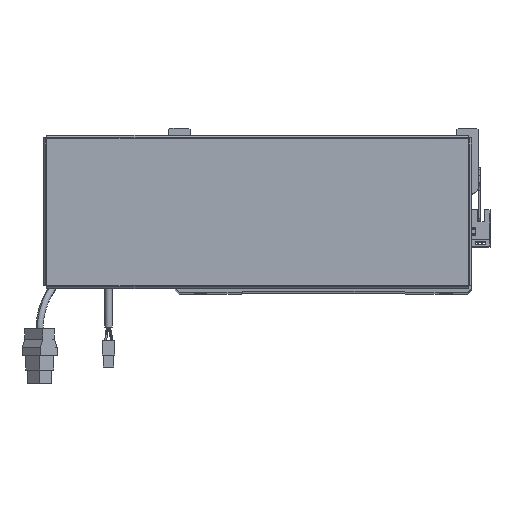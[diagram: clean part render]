
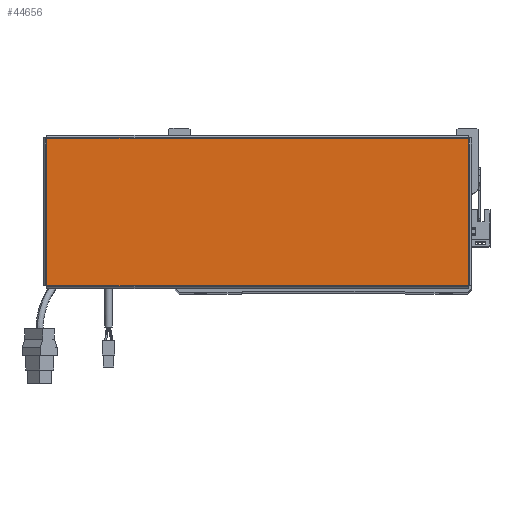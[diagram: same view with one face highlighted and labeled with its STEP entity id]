
A CAD part, top view. The second image highlights one B-rep face of the part: STEP entity #44656.
In plain terms, the highlighted planar face has unit normal (0, 0, 1).
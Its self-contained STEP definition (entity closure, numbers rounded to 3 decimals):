
#830 = LINE ( 'NONE', #17019, #52307 ) ;
#2683 = CARTESIAN_POINT ( 'NONE',  ( -156.513, 54.793, 0. ) ) ;
#7366 = ORIENTED_EDGE ( 'NONE', *, *, #21416, .T. ) ;
#8075 = DIRECTION ( 'NONE',  ( 0., -1., 0. ) ) ;
#10597 = ORIENTED_EDGE ( 'NONE', *, *, #56997, .T. ) ;
#15686 = VERTEX_POINT ( 'NONE', #58183 ) ;
#17019 = CARTESIAN_POINT ( 'NONE',  ( 156.513, -54.793, 0. ) ) ;
#17365 = CARTESIAN_POINT ( 'NONE',  ( 156.543, 54.763, 0. ) ) ;
#18722 = CARTESIAN_POINT ( 'NONE',  ( 156.513, 54.763, 0. ) ) ;
#21416 = EDGE_CURVE ( 'NONE', #60050, #40369, #53775, .T. ) ;
#24174 = DIRECTION ( 'NONE',  ( 0., 0., 1. ) ) ;
#24340 = EDGE_LOOP ( 'NONE', ( #29048, #45868, #7366, #10597 ) ) ;
#24402 = CARTESIAN_POINT ( 'NONE',  ( 0., 0., 0. ) ) ;
#29048 = ORIENTED_EDGE ( 'NONE', *, *, #60227, .T. ) ;
#30328 = VECTOR ( 'NONE', #8075, 1000. ) ;
#34981 = EDGE_CURVE ( 'NONE', #15686, #60050, #830, .T. ) ;
#37486 = LINE ( 'NONE', #2683, #30328 ) ;
#40324 = VECTOR ( 'NONE', #51443, 1000. ) ;
#40369 = VERTEX_POINT ( 'NONE', #41625 ) ;
#41625 = CARTESIAN_POINT ( 'NONE',  ( -156.513, 54.763, 0. ) ) ;
#44656 = ADVANCED_FACE ( 'NONE', ( #56787 ), #64731, .T. ) ;
#45463 = AXIS2_PLACEMENT_3D ( 'NONE', #24402, #24174, #60275 ) ;
#45868 = ORIENTED_EDGE ( 'NONE', *, *, #34981, .T. ) ;
#51443 = DIRECTION ( 'NONE',  ( 1., 0., 0. ) ) ;
#51891 = CARTESIAN_POINT ( 'NONE',  ( -156.543, -54.763, 0. ) ) ;
#52307 = VECTOR ( 'NONE', #58306, 1000. ) ;
#53775 = LINE ( 'NONE', #17365, #61806 ) ;
#56308 = VERTEX_POINT ( 'NONE', #58483 ) ;
#56787 = FACE_OUTER_BOUND ( 'NONE', #24340, .T. ) ;
#56997 = EDGE_CURVE ( 'NONE', #40369, #56308, #37486, .T. ) ;
#58183 = CARTESIAN_POINT ( 'NONE',  ( 156.513, -54.763, 0. ) ) ;
#58306 = DIRECTION ( 'NONE',  ( 0., 1., 0. ) ) ;
#58483 = CARTESIAN_POINT ( 'NONE',  ( -156.513, -54.763, 0. ) ) ;
#60050 = VERTEX_POINT ( 'NONE', #18722 ) ;
#60227 = EDGE_CURVE ( 'NONE', #56308, #15686, #62787, .T. ) ;
#60275 = DIRECTION ( 'NONE',  ( 1., 0., 0. ) ) ;
#61806 = VECTOR ( 'NONE', #63574, 1000. ) ;
#62787 = LINE ( 'NONE', #51891, #40324 ) ;
#63574 = DIRECTION ( 'NONE',  ( -1., 0., 0. ) ) ;
#64731 = PLANE ( 'NONE',  #45463 ) ;
